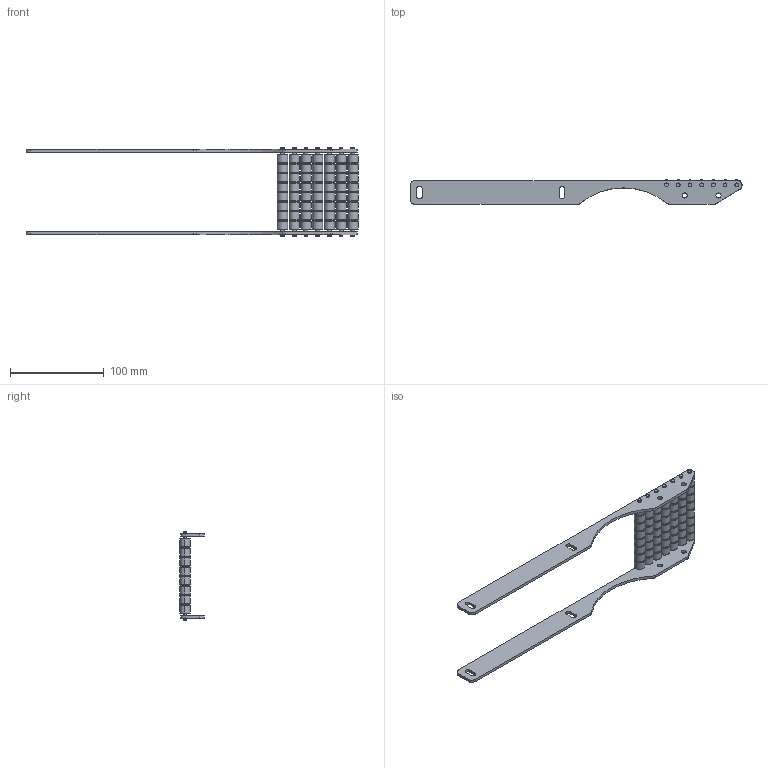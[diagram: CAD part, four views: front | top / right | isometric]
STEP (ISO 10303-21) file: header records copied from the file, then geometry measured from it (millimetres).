
FILE_DESCRIPTION (( 'STEP AP214' ), '1' );
FILE_NAME ('FMTB 85.step', '2017-04-07T11:08:53', ( '' ), ( '' ), 'SwSTEP 2.0', 'SolidWorks 2016', '' );
FILE_SCHEMA (( 'AUTOMOTIVE_DESIGN' ));
Length unit declared in the file: millimetre
Products named in the file (1): FMTB 85
Bounding box: 353.7 x 26.04 x 94.6 mm (x, y, z)
Volume: 94291.2 mm3; surface area: 61908.8 mm2
Topology: 1 solids, 1 shells, 1274 faces, 2606 edges, 1588 vertices
Faces by surface type: cylinder 550, torus 448, plane 276
Entity records: 34212 total; most frequent: DIRECTION 7152, CARTESIAN_POINT 5469, ORIENTED_EDGE 5212, AXIS2_PLACEMENT_3D 3271, EDGE_CURVE 2606, CIRCLE 1996, VERTEX_POINT 1588, EDGE_LOOP 1556
